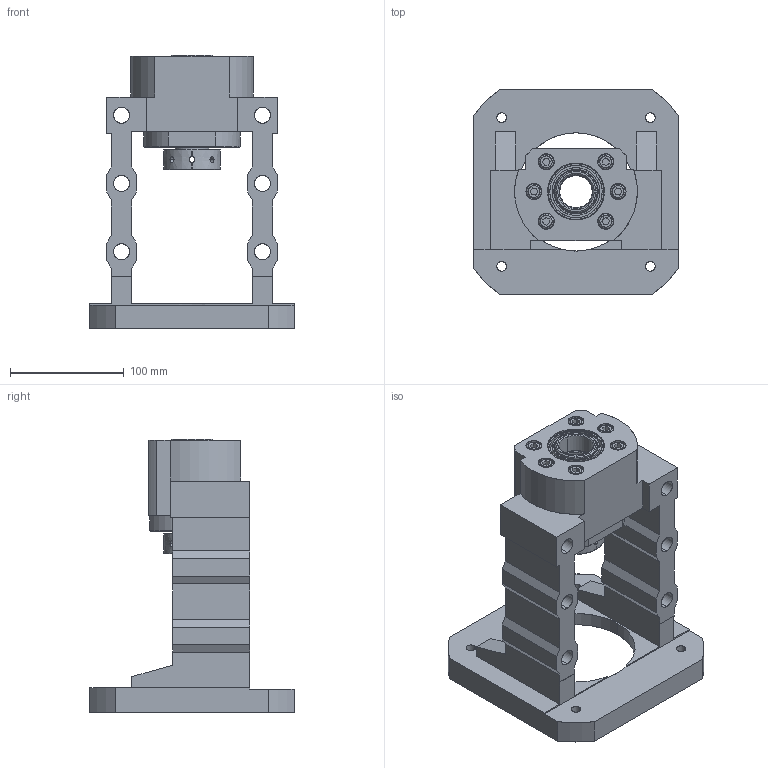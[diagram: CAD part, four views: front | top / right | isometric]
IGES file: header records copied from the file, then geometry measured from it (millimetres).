
Start section: SolidWorks IGES file using analytic representation for surfaces
Bounding box: 180 x 180 x 241 mm (x, y, z)
Surface area: 221702.5 mm2 (no closed solid volume)
Topology: 0 solids, 0 shells, 334 faces, 5782 edges, 5774 vertices
Faces by surface type: revolution 173, bspline 161
